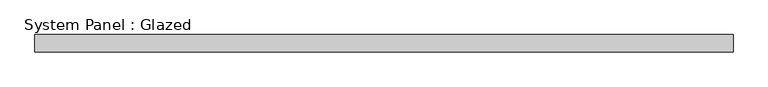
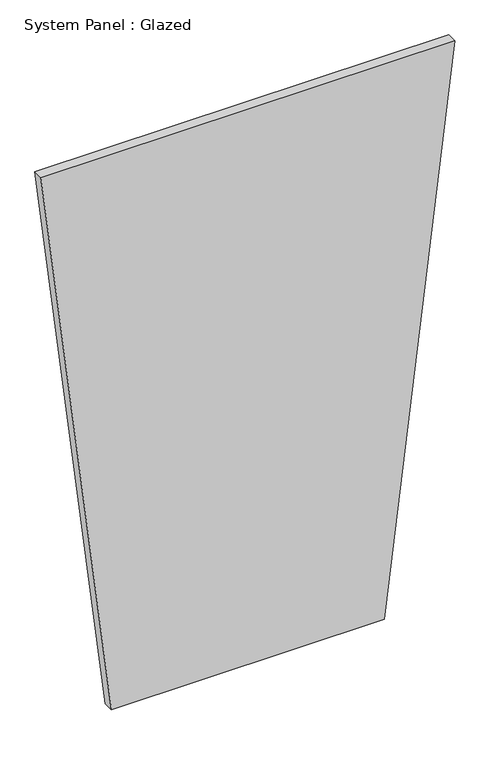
"""IFC4 building model written with IfcOpenShell, lengths in millimetres: plate geometry, System Panel : Glazed."""

from ifc_helpers import new_model, si_unit, frame, origin, place, context, project, spatial, polyline, outline, extrude, source, transform, mapped, element, save


def system_panel_glazed_21f1f6a8(model_context):
    return source(origin(), model_context, "Body", "SweptSolid", [
        extrude(outline(polyline([(0.0, -334.5336656), (0.0, 334.5336656), (1439.2858222, 507.4882742), (1439.2858222, -507.4882742), (0.0, -334.5336656)])), frame((0.0, -49.5, 0.0), z_axis=(0.0, 1.0, 0.0), x_axis=(0.0, 0.0, 1.0)), (0.0, 0.0, 1.0), 25.0),
    ])


if __name__ == "__main__":
    model = new_model("IFC4")
    model_context = context("Model", 3, world=origin())
    ifc_project = project(units=[si_unit("LENGTHUNIT", "METRE", prefix="MILLI")], contexts=[model_context])
    site = spatial("IfcSite", under=ifc_project)
    building = spatial("IfcBuilding", under=site)
    placement = place(None, origin())
    system_panel_glazed_shape = system_panel_glazed_21f1f6a8(model_context)
    element("IfcPlate", 1, ObjectType="System Panel : Glazed", at=placement, inside=building, context=model_context, shape_type="MappedRepresentation", body=[
        mapped(system_panel_glazed_shape, transform((0.0, 0.0, 0.0), x_axis=(1.0, 0.0, 0.0), y_axis=(0.0, 1.0, 0.0), z_axis=(0.0, 0.0, 1.0))),
    ])
    save(model, "model.ifc")
